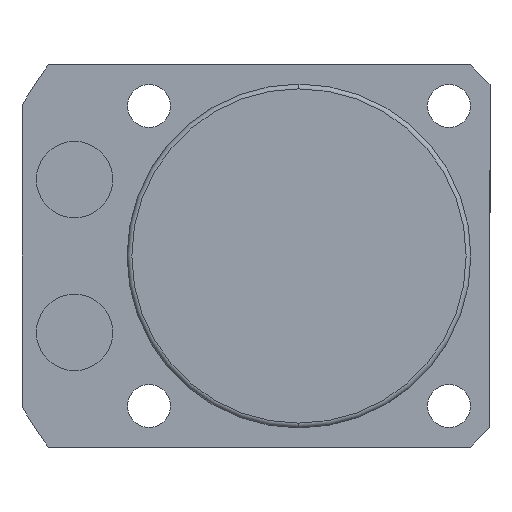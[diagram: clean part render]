
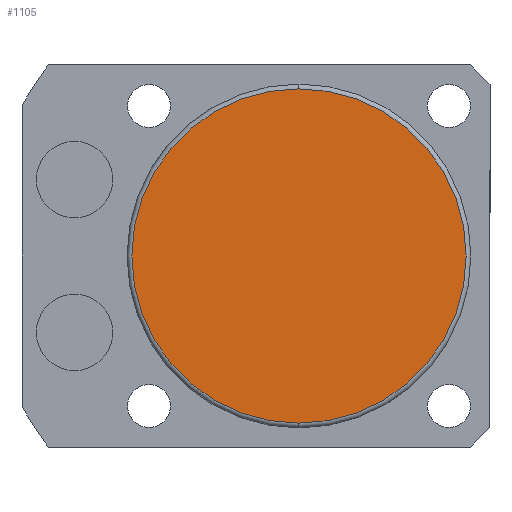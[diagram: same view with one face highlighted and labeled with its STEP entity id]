
A CAD part, front view. The second image highlights one B-rep face of the part: STEP entity #1105.
In plain terms, the highlighted planar face has unit normal (0, -1, 0).
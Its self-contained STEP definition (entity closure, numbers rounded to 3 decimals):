
#251 = DIRECTION ( 'NONE',  ( 0., 0., -1. ) ) ;
#406 = CARTESIAN_POINT ( 'NONE',  ( 0., -70.5, 0. ) ) ;
#464 = DIRECTION ( 'NONE',  ( 0., 0., -1. ) ) ;
#767 = CIRCLE ( 'NONE', #1170, 17.5 ) ;
#852 = DIRECTION ( 'NONE',  ( 0., -1., 0. ) ) ;
#983 = AXIS2_PLACEMENT_3D ( 'NONE', #2123, #4832, #2514 ) ;
#1075 = VERTEX_POINT ( 'NONE', #4026 ) ;
#1105 = ADVANCED_FACE ( 'NONE', ( #3445 ), #3679, .T. ) ;
#1170 = AXIS2_PLACEMENT_3D ( 'NONE', #406, #852, #464 ) ;
#1855 = DIRECTION ( 'NONE',  ( 0., -1., 0. ) ) ;
#2112 = CIRCLE ( 'NONE', #3462, 17.5 ) ;
#2123 = CARTESIAN_POINT ( 'NONE',  ( 0., -70.5, 0. ) ) ;
#2441 = EDGE_CURVE ( 'NONE', #1075, #4609, #2112, .T. ) ;
#2514 = DIRECTION ( 'NONE',  ( 0., 0., -1. ) ) ;
#3331 = ORIENTED_EDGE ( 'NONE', *, *, #2441, .T. ) ;
#3445 = FACE_OUTER_BOUND ( 'NONE', #3752, .T. ) ;
#3462 = AXIS2_PLACEMENT_3D ( 'NONE', #4563, #1855, #251 ) ;
#3679 = PLANE ( 'NONE',  #983 ) ;
#3752 = EDGE_LOOP ( 'NONE', ( #3331, #4075 ) ) ;
#3834 = CARTESIAN_POINT ( 'NONE',  ( 0., -70.5, 17.5 ) ) ;
#4026 = CARTESIAN_POINT ( 'NONE',  ( 0., -70.5, -17.5 ) ) ;
#4075 = ORIENTED_EDGE ( 'NONE', *, *, #4297, .T. ) ;
#4297 = EDGE_CURVE ( 'NONE', #4609, #1075, #767, .T. ) ;
#4563 = CARTESIAN_POINT ( 'NONE',  ( 0., -70.5, 0. ) ) ;
#4609 = VERTEX_POINT ( 'NONE', #3834 ) ;
#4832 = DIRECTION ( 'NONE',  ( 0., -1., 0. ) ) ;
